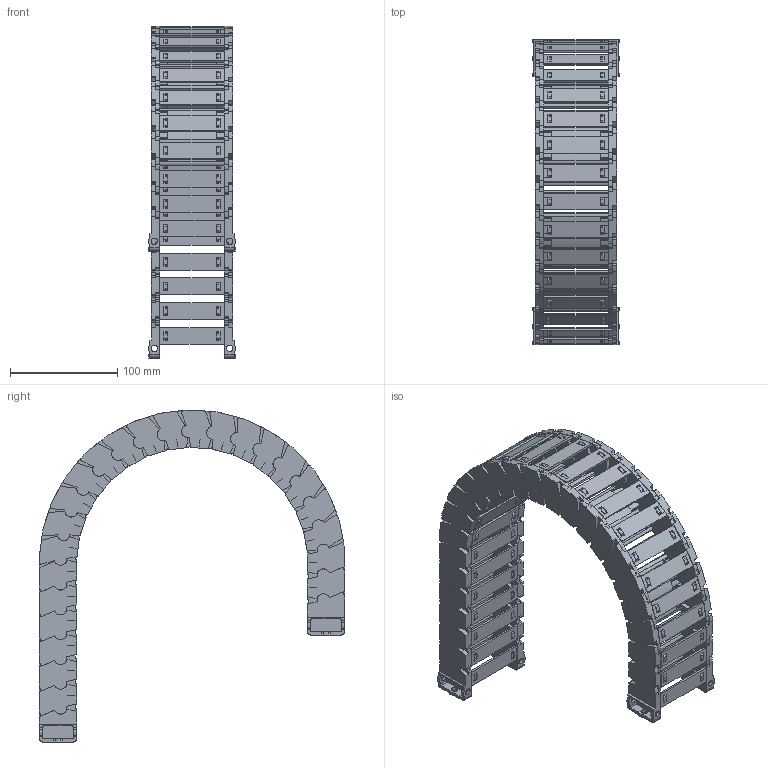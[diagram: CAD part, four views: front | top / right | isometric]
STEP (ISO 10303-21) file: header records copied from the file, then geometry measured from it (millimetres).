
FILE_DESCRIPTION((''),'2;1');
FILE_NAME('JY-25X60-R125_ASM','2022-05-07T10:54:44',('admin'),(''),'CREO PARAMETRIC BY PTC INC, 2021164','CREO PARAMETRIC BY PTC INC, 2021164','');
FILE_SCHEMA(('CONFIG_CONTROL_DESIGN','GEOMETRIC_VALIDATION_PROPERTIES_MIM'));
Length unit declared in the file: millimetre
Products named in the file (11): 25XL-L; 25-35XL-YP; 25XL-R; ASM0001_ASM; 25-LTT-A-L; 25-LTT-A-R; 25XL-LTT-A_ASM; 25-LTT-B-L; 25-LTT-B-R; 25XL-LTT-B_ASM; JY-25X60-R125_ASM
Assembly tree (38 placements, depth 3):
  JY-25X60-R125_ASM
    ASM0001_ASM  x24
      25XL-L
      25-35XL-YP
      25XL-R
    25XL-LTT-A_ASM
      25-LTT-A-L
      25-35XL-YP  x2
      25-LTT-A-R
    25XL-LTT-B_ASM
      25-LTT-B-L
      25-35XL-YP  x2
      25-LTT-B-R
Bounding box: 81.17 x 284.61 x 309.36 mm (x, y, z)
Volume: 447911.7 mm3; surface area: 334322.3 mm2
Topology: 104 solids, 128 shells, 5398 faces, 16134 edges, 10918 vertices
Faces by surface type: plane 3982, cylinder 1368, cone 48
Entity records: 24131 total; most frequent: CARTESIAN_POINT 3132, DIRECTION 3027, ORIENTED_EDGE 2962, EDGE_CURVE 1483, PRESENTATION_STYLE_ASSIGNMENT 1413, STYLED_ITEM 1381, VECTOR 1053, LINE 1053
